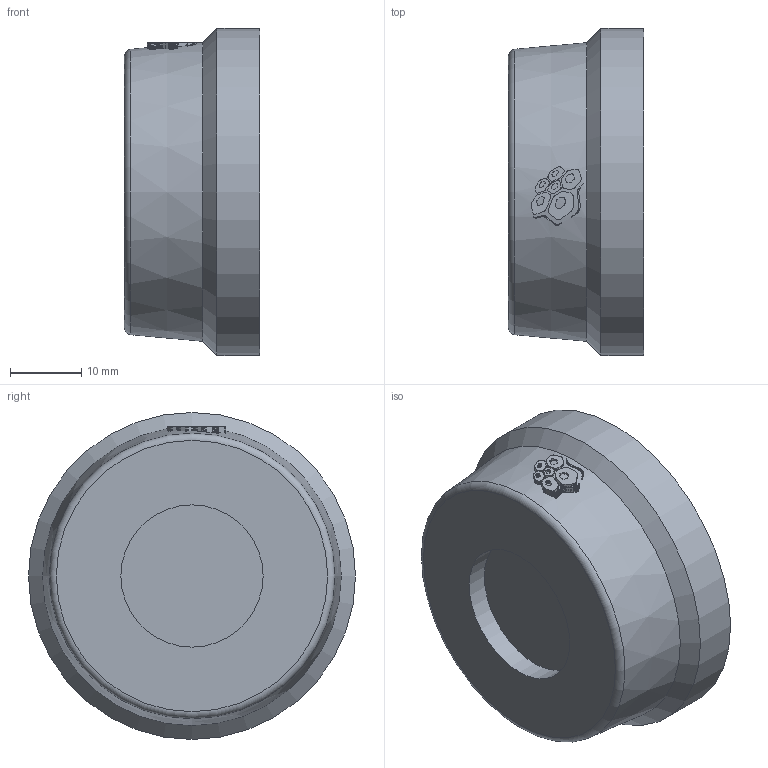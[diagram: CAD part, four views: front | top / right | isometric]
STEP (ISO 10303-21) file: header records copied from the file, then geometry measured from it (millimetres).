
FILE_DESCRIPTION(('STEP AP203'), '1');
FILE_NAME('3D_404-020-40_1', '', ('UNSPECIFIED'), ('UNSPECIFIED'), 'C3D Converter', 'C3D Toolkit', '');
FILE_SCHEMA(('CONFIG_CONTROL_DESIGN'));
Length unit declared in the file: millimetre
Bounding box: 19 x 46 x 46 mm (x, y, z)
Volume: 13422.6 mm3; surface area: 9836.4 mm2
Topology: 1 solids, 1 shells, 882 faces, 2611 edges, 1744 vertices
Faces by surface type: plane 843, cylinder 25, cone 9, torus 4, bspline 1
Full cylindrical faces by diameter (mm): 10 x1, 18 x1, 20 x1, 24 x1, 46 x1
Entity records: 39324 total; most frequent: CARTESIAN_POINT 10211, ORIENTED_EDGE 5194, DIRECTION 3627, EDGE_CURVE 2597, VERTEX_POINT 1743, LINE 1701, VECTOR 1701, AXIS2_PLACEMENT_3D 963
